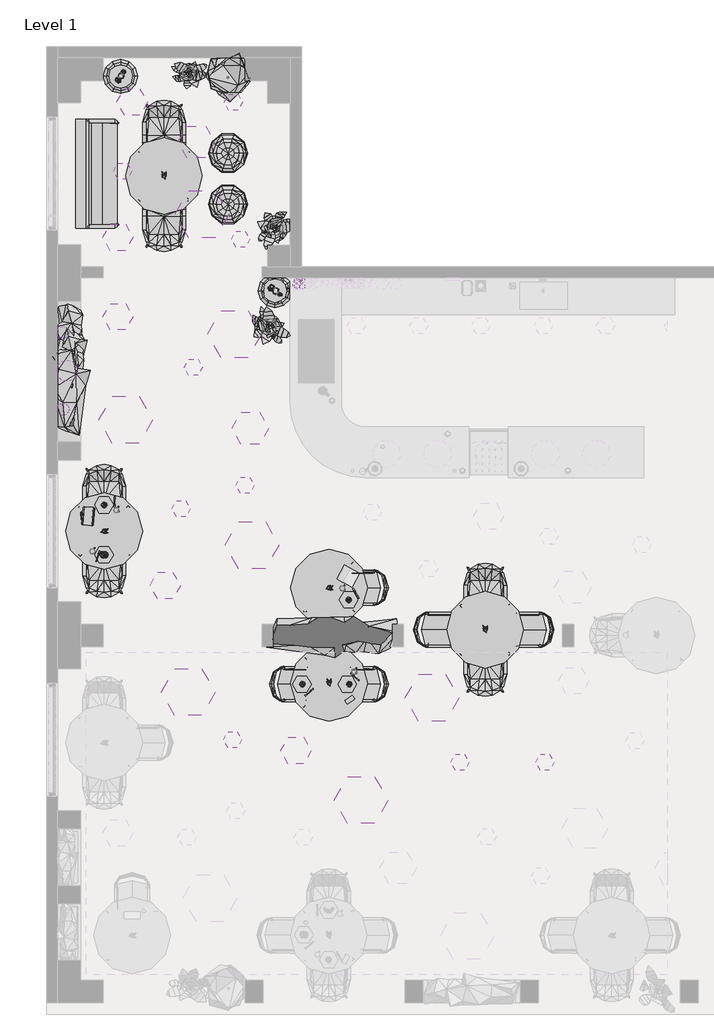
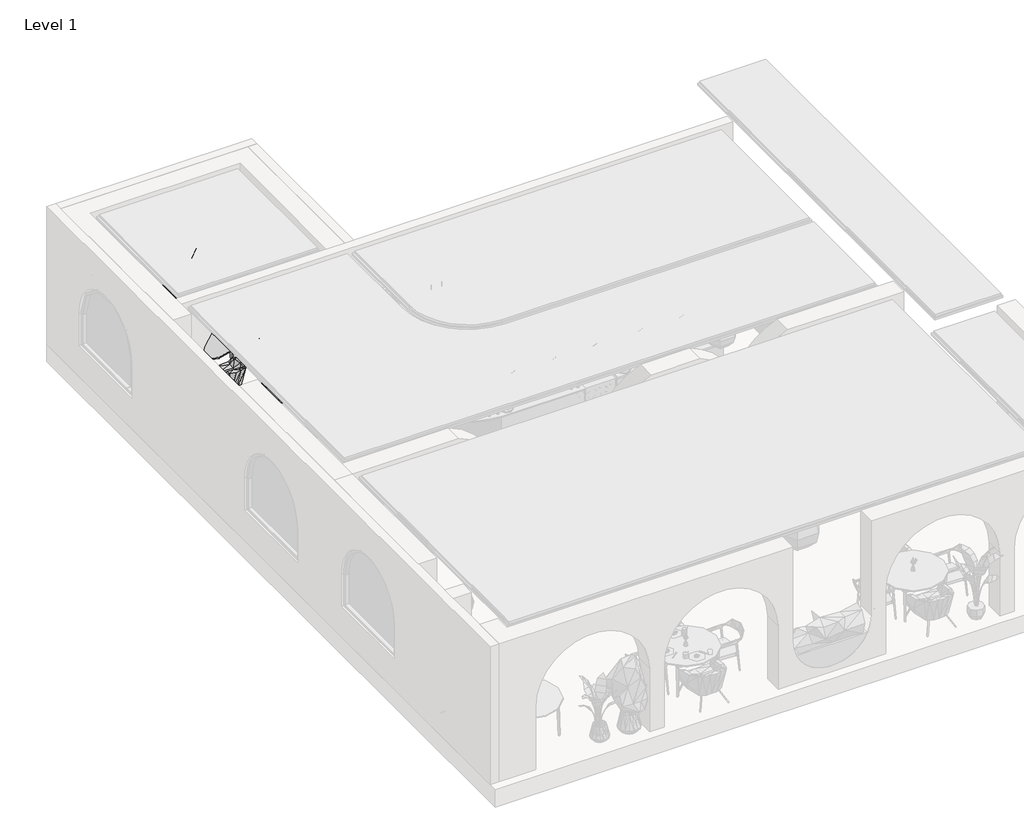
# One storey, part 3 of 5: 91 geographic elements.
"""IFC4 building model written with IfcOpenShell, lengths in millimetres."""

from ifc_helpers import new_model, si_unit, origin, place, context, project, spatial, transform, mapped, element, save
from components import geographic_element_8ca766f1, geographic_element_7c99d2c4, geographic_element_ad5755f3, geographic_element_16dff3c8, geographic_element_266ae1ca, geographic_element_ddda1ed9, geographic_element_9b304887, geographic_element_eaedea96, geographic_element_ab19c15e, geographic_element_721f793b, geographic_element_d7ba0e85, geographic_element_7c057f5b, geographic_element_bc1c03e3, geographic_element_5908e057, enscape_assetdefinition_armchair_052_outdoor_enscape_f294b56b, enscape_assetdefinition_armchair_052_outdoor_enscape_d5c26a59, enscape_assetdefinition_basket_003_enscape_assetdefinition_82603852, enscape_assetdefinition_basket_004_enscape_assetdefinition_14d161dd, enscape_assetdefinition_basket_004_enscape_assetdefinition_e0a11305, enscape_assetdefinition_chair_005_enscape_assetdefinition_31156a69, enscape_assetdefinition_chair_005_enscape_assetdefinition_cb8def9a, enscape_assetdefinition_coffee_maker_001_enscape_8fe14100, enscape_assetdefinition_cup_002_coffee_enscape_aa947409, enscape_assetdefinition_floor_lamp_016_enscape_4e544922, enscape_assetdefinition_floor_lamp_016_enscape_5eb83b77, enscape_assetdefinition_floor_lamp_016_enscape_559c5179, enscape_assetdefinition_floor_lamp_016_enscape_966ce3ff, enscape_assetdefinition_floor_lamp_016_enscape_838fbf4e, enscape_assetdefinition_floor_lamp_016_enscape_9e8934fe, enscape_assetdefinition_glass_006_enscape_assetdefinition_72c5cc0c, enscape_assetdefinition_pen_tablet_001_enscape_65ee1f54, enscape_assetdefinition_plate_002_flat_enscape_c81c6526, enscape_assetdefinition_pouf_014_enscape_assetdefinition_ed6ffb50, enscape_assetdefinition_sofa_055_outdoor_enscape_e8bea229, enscape_assetdefinition_vase_048_paper_palm_enscape_02403a3f

model = new_model("IFC4")

# Units and contexts
model_context = context("Model", 3, world=origin())
ifc_project = project(units=[si_unit("LENGTHUNIT", "METRE", prefix="MILLI")], contexts=[model_context])

# Site, building, storey
site = spatial("IfcSite", under=ifc_project)
building = spatial("IfcBuilding", under=site)
storey = spatial("IfcBuildingStorey", under=building, Name="Level 1", Elevation=0.0)

# Geographic elements
placement = place(None, origin())
geographic_element_shape = geographic_element_8ca766f1(model_context)
element("IfcGeographicElement", 1, ObjectType="Enscape AssetDefinition - Food 027 Pastry : Enscape AssetDefinition - Food 027 Pastry", at=placement, inside=storey, context=model_context, shape_type="MappedRepresentation", body=[
    mapped(geographic_element_shape, transform((16764.7330214, 3637.2135848, 765.0), x_axis=(1.0, 0.0, 0.0), y_axis=(0.0, 1.0, 0.0), z_axis=(0.0, 0.0, 1.0))),
])
element("IfcGeographicElement", 2, ObjectType="Enscape AssetDefinition - Food 027 Pastry : Enscape AssetDefinition - Food 027 Pastry", at=placement, inside=storey, context=model_context, shape_type="MappedRepresentation", body=[
    mapped(geographic_element_shape, transform((16775.1576528, 2150.3600826, 765.0), x_axis=(1.0, 0.0, 0.0), y_axis=(0.0, 1.0, 0.0), z_axis=(0.0, 0.0, 1.0))),
])
element("IfcGeographicElement", 3, ObjectType="Enscape AssetDefinition - Food 027 Pastry : Enscape AssetDefinition - Food 027 Pastry", at=placement, inside=storey, context=model_context, shape_type="MappedRepresentation", body=[
    mapped(geographic_element_shape, transform((15947.8076656, 2150.3600826, 765.0), x_axis=(1.0, 0.0, 0.0), y_axis=(0.0, 1.0, 0.0), z_axis=(0.0, 0.0, 1.0))),
])
element("IfcGeographicElement", 4, ObjectType="Enscape AssetDefinition - Food 027 Pastry : Enscape AssetDefinition - Food 027 Pastry", at=placement, inside=storey, context=model_context, shape_type="MappedRepresentation", body=[
    mapped(geographic_element_shape, transform((12451.4780503, 5310.3600826, 765.0), x_axis=(1.0, 0.0, 0.0), y_axis=(0.0, 1.0, 0.0), z_axis=(0.0, 0.0, 1.0))),
])
geographic_element_2_shape = geographic_element_7c99d2c4(model_context)
element("IfcGeographicElement", 5, ObjectType="Enscape AssetDefinition - Food 019 Pastry : Enscape AssetDefinition - Food 019 Pastry", at=placement, inside=storey, context=model_context, shape_type="MappedRepresentation", body=[
    mapped(geographic_element_2_shape, transform((12451.4780503, 4430.3600826, 765.0), x_axis=(1.0, 0.0, 0.0), y_axis=(0.0, 1.0, 0.0), z_axis=(0.0, 0.0, 1.0))),
])
geographic_element_3_shape = geographic_element_ad5755f3(model_context)
element("IfcGeographicElement", 6, ObjectType="Enscape AssetDefinition - Ease Round Table : Enscape AssetDefinition - Ease Round Table", at=placement, inside=storey, context=model_context, shape_type="MappedRepresentation", body=[
    mapped(geographic_element_3_shape, transform((13507.3956226, 11110.3600826, 0.0), x_axis=(1.0, 0.0, 0.0), y_axis=(0.0, 1.0, 0.0), z_axis=(0.0, 0.0, 1.0))),
])
element("IfcGeographicElement", 7, ObjectType="Enscape AssetDefinition - Ease Round Table : Enscape AssetDefinition - Ease Round Table", at=placement, inside=storey, context=model_context, shape_type="MappedRepresentation", body=[
    mapped(geographic_element_3_shape, transform((12451.4780503, 4850.1610272, 0.0), x_axis=(1.0, 0.0, 0.0), y_axis=(0.0, 1.0, 0.0), z_axis=(0.0, 0.0, 1.0))),
])
element("IfcGeographicElement", 8, ObjectType="Enscape AssetDefinition - Ease Round Table : Enscape AssetDefinition - Ease Round Table", at=placement, inside=storey, context=model_context, shape_type="MappedRepresentation", body=[
    mapped(geographic_element_3_shape, transform((19174.1465156, 3110.3600826, 0.0), x_axis=(1.0, 0.0, 0.0), y_axis=(0.0, 1.0, 0.0), z_axis=(0.0, 0.0, 1.0))),
])
element("IfcGeographicElement", 9, ObjectType="Enscape AssetDefinition - Ease Round Table : Enscape AssetDefinition - Ease Round Table", at=placement, inside=storey, context=model_context, shape_type="MappedRepresentation", body=[
    mapped(geographic_element_3_shape, transform((16418.6073706, 3852.330219, 0.0), x_axis=(0.0, 1.0, 0.0), y_axis=(-1.0, 0.0, 0.0), z_axis=(0.0, 0.0, 1.0))),
])
geographic_element_4_shape = geographic_element_16dff3c8(model_context)
element("IfcGeographicElement", 10, ObjectType="Enscape AssetDefinition - Ease Round Table : Enscape AssetDefinition - Ease Round Table", at=placement, inside=storey, context=model_context, shape_type="MappedRepresentation", body=[
    mapped(geographic_element_4_shape, transform((16418.6073706, 2168.3899463, 0.0), x_axis=(0.0, -1.0, 0.0), y_axis=(1.0, 0.0, 0.0), z_axis=(0.0, 0.0, 1.0))),
])
geographic_element_5_shape = geographic_element_266ae1ca(model_context)
element("IfcGeographicElement", 11, ObjectType="Enscape AssetDefinition - Potted Plant 250 Snake Plant : Enscape AssetDefinition - Potted Plant 250 Snake Plant", at=placement, inside=storey, context=model_context, shape_type="MappedRepresentation", body=[
    mapped(geographic_element_5_shape, transform((11835.1576528, 8055.0994043, 554.8985655), x_axis=(1.0, 0.0, 0.0), y_axis=(0.0, 1.0, 0.0), z_axis=(0.0, 0.0, 1.0))),
])
geographic_element_6_shape = geographic_element_ddda1ed9(model_context)
element("IfcGeographicElement", 12, ObjectType="Enscape AssetDefinition - Potted Plant 250 Snake Plant : Enscape AssetDefinition - Potted Plant 250 Snake Plant 2", at=placement, inside=storey, context=model_context, shape_type="MappedRepresentation", body=[
    mapped(geographic_element_6_shape, transform((11835.1576528, 7500.0994043, 554.8985655), x_axis=(1.0, 0.0, 0.0), y_axis=(0.0, 1.0, 0.0), z_axis=(0.0, 0.0, 1.0))),
])
geographic_element_7_shape = geographic_element_9b304887(model_context)
element("IfcGeographicElement", 13, ObjectType="Enscape AssetDefinition - Potted Plant 250 Snake Plant : Enscape AssetDefinition - Potted Plant 250 Snake Plant 3", at=placement, inside=storey, context=model_context, shape_type="MappedRepresentation", body=[
    mapped(geographic_element_7_shape, transform((16455.1576528, 3010.3600826, 616.3291766), x_axis=(0.0, -1.0, 0.0), y_axis=(1.0, 0.0, 0.0), z_axis=(0.0, 0.0, 1.0))),
])
geographic_element_8_shape = geographic_element_eaedea96(model_context)
element("IfcGeographicElement", 14, ObjectType="Enscape AssetDefinition - Potted Plant 002 Cactus : Enscape AssetDefinition - Potted Plant 002 Cactus", at=placement, inside=storey, context=model_context, shape_type="MappedRepresentation", body=[
    mapped(geographic_element_8_shape, transform((12742.0213957, 12863.3824293, 0.0), x_axis=(0.5735764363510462, 0.8191520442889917, 0.0), y_axis=(-0.8191520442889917, 0.5735764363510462, 0.0), z_axis=(0.0, 0.0, 1.0))),
])
geographic_element_9_shape = geographic_element_ab19c15e(model_context)
element("IfcGeographicElement", 15, ObjectType="Enscape AssetDefinition - Potted Plant 024 Fiddle-Leaf Fig : Enscape AssetDefinition - Potted Plant 024 Fiddle-Leaf Fig 2", at=placement, inside=storey, context=model_context, shape_type="MappedRepresentation", body=[
    mapped(geographic_element_9_shape, transform((14638.659147, 12850.3600826, 0.0), x_axis=(0.0, -1.0, 0.0), y_axis=(1.0, 0.0, 0.0), z_axis=(0.0, 0.0, 1.0))),
])
geographic_element_10_shape = geographic_element_721f793b(model_context)
element("IfcGeographicElement", 16, ObjectType="Enscape AssetDefinition - Potted Plant 002 Cactus : Enscape AssetDefinition - Potted Plant 002 Cactus 2", at=placement, inside=storey, context=model_context, shape_type="MappedRepresentation", body=[
    mapped(geographic_element_10_shape, transform((15469.9906587, 9088.9442706, 0.0), x_axis=(0.8191520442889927, -0.5735764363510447, 0.0), y_axis=(0.5735764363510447, 0.8191520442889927, 0.0), z_axis=(0.0, 0.0, 1.0))),
])
geographic_element_11_shape = geographic_element_d7ba0e85(model_context)
element("IfcGeographicElement", 17, ObjectType="Enscape AssetDefinition - Potted Plant 119 Strelitzia Nicolai : Enscape AssetDefinition - Potted Plant 119 Strelitzia Nicolai 2", at=placement, inside=storey, context=model_context, shape_type="MappedRepresentation", body=[
    mapped(geographic_element_11_shape, transform((15481.2902832, 10189.5644545, 0.0), x_axis=(0.9455185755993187, 0.32556815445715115, 0.0), y_axis=(-0.32556815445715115, 0.9455185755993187, 0.0), z_axis=(0.0, 0.0, 1.0))),
])
element("IfcGeographicElement", 18, ObjectType="Enscape AssetDefinition - Potted Plant 119 Strelitzia Nicolai : Enscape AssetDefinition - Potted Plant 119 Strelitzia Nicolai 2", at=placement, inside=storey, context=model_context, shape_type="MappedRepresentation", body=[
    mapped(geographic_element_11_shape, transform((15361.7764835, 8465.6402935, 0.0), x_axis=(-0.32556815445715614, 0.9455185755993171, 0.0), y_axis=(-0.9455185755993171, -0.32556815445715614, 0.0), z_axis=(0.0, 0.0, 1.0))),
])
geographic_element_12_shape = geographic_element_7c057f5b(model_context)
element("IfcGeographicElement", 19, ObjectType="Enscape AssetDefinition - Potted Plant 119 Strelitzia Nicolai : Enscape AssetDefinition - Potted Plant 119 Strelitzia Nicolai 3", at=placement, inside=storey, context=model_context, shape_type="MappedRepresentation", body=[
    mapped(geographic_element_12_shape, transform((13940.0393029, 12929.5193963, 0.0), x_axis=(-0.9271838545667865, 0.37460659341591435, 0.0), y_axis=(-0.37460659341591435, -0.9271838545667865, 0.0), z_axis=(0.0, 0.0, 1.0))),
])
geographic_element_13_shape = geographic_element_bc1c03e3(model_context)
element("IfcGeographicElement", 20, ObjectType="Enscape AssetDefinition - Smartphone 002 : Enscape AssetDefinition - Smartphone 002", at=placement, inside=storey, context=model_context, shape_type="MappedRepresentation", body=[
    mapped(geographic_element_13_shape, transform((16787.9806031, 1880.2171241, 762.0), x_axis=(0.587785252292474, -0.8090169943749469, 0.0), y_axis=(0.8090169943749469, 0.587785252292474, 0.0), z_axis=(0.0, 0.0, 1.0))),
])
geographic_element_14_shape = geographic_element_5908e057(model_context)
element("IfcGeographicElement", 21, ObjectType="Enscape AssetDefinition - Cutlery 001 Fork : Enscape AssetDefinition - Cutlery 001 Fork", at=placement, inside=storey, context=model_context, shape_type="MappedRepresentation", body=[
    mapped(geographic_element_14_shape, transform((16066.17958, 2005.7587001, 762.0), x_axis=(0.6427876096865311, -0.766044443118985, 0.0), y_axis=(0.766044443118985, 0.6427876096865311, 0.0), z_axis=(0.0, 0.0, 1.0))),
])
element("IfcGeographicElement", 22, ObjectType="Enscape AssetDefinition - Cutlery 001 Fork : Enscape AssetDefinition - Cutlery 001 Fork", at=placement, inside=storey, context=model_context, shape_type="MappedRepresentation", body=[
    mapped(geographic_element_14_shape, transform((12341.1690492, 4404.2493946, 780.0), x_axis=(0.9510565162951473, -0.3090169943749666, 0.0), y_axis=(0.3090169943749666, 0.9510565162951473, 0.0), z_axis=(0.0, 0.0, 1.0))),
])
element("IfcGeographicElement", 23, ObjectType="Enscape AssetDefinition - Cutlery 001 Fork : Enscape AssetDefinition - Cutlery 001 Fork", at=placement, inside=storey, context=model_context, shape_type="MappedRepresentation", body=[
    mapped(geographic_element_14_shape, transform((16876.2440437, 2278.290505, 762.0), x_axis=(0.6697026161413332, 0.742629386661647, 0.0), y_axis=(-0.742629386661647, 0.6697026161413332, 0.0), z_axis=(0.0, 0.0, 1.0))),
])
element("IfcGeographicElement", 24, ObjectType="Enscape AssetDefinition - Cutlery 001 Fork : Enscape AssetDefinition - Cutlery 001 Fork", at=placement, inside=storey, context=model_context, shape_type="MappedRepresentation", body=[
    mapped(geographic_element_14_shape, transform((16893.1275574, 3751.063625, 762.0), x_axis=(0.857563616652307, 0.5143779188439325, 0.0), y_axis=(-0.5143779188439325, 0.857563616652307, 0.0), z_axis=(0.0, 0.0, 1.0))),
])
element("IfcGeographicElement", 25, ObjectType="Enscape AssetDefinition - Cutlery 001 Fork : Enscape AssetDefinition - Cutlery 001 Fork", at=placement, inside=storey, context=model_context, shape_type="MappedRepresentation", body=[
    mapped(geographic_element_14_shape, transform((12635.1576528, 5365.3600826, 762.0), x_axis=(-1.0, 0.0, 0.0), y_axis=(0.0, -1.0, 0.0), z_axis=(0.0, 0.0, 1.0))),
])
enscape_assetdefinition_armchair_052_outdoor_enscape_shape = enscape_assetdefinition_armchair_052_outdoor_enscape_f294b56b(model_context)
element("IfcGeographicElement", 26, ObjectType="Enscape AssetDefinition - Armchair 052 Outdoor : Enscape AssetDefinition - Armchair 052 Outdoor", at=placement, inside=storey, context=model_context, shape_type="MappedRepresentation", body=[
    mapped(enscape_assetdefinition_armchair_052_outdoor_enscape_shape, transform((13507.3956226, 11946.1650532, 0.0), x_axis=(1.0, 0.0, 0.0), y_axis=(0.0, 1.0, 0.0), z_axis=(0.0, 0.0, 1.0))),
])
element("IfcGeographicElement", 27, ObjectType="Enscape AssetDefinition - Armchair 052 Outdoor : Enscape AssetDefinition - Armchair 052 Outdoor", at=placement, inside=storey, context=model_context, shape_type="MappedRepresentation", body=[
    mapped(enscape_assetdefinition_armchair_052_outdoor_enscape_shape, transform((12451.4780503, 5525.9659977, 0.0), x_axis=(1.0, 0.0, 0.0), y_axis=(0.0, 1.0, 0.0), z_axis=(0.0, 0.0, 1.0))),
])
element("IfcGeographicElement", 28, ObjectType="Enscape AssetDefinition - Armchair 052 Outdoor : Enscape AssetDefinition - Armchair 052 Outdoor", at=placement, inside=storey, context=model_context, shape_type="MappedRepresentation", body=[
    mapped(enscape_assetdefinition_armchair_052_outdoor_enscape_shape, transform((19174.1465156, 3786.1650532, 0.0), x_axis=(1.0, 0.0, 0.0), y_axis=(0.0, 1.0, 0.0), z_axis=(0.0, 0.0, 1.0))),
])
enscape_assetdefinition_armchair_052_outdoor_enscape_2_shape = enscape_assetdefinition_armchair_052_outdoor_enscape_d5c26a59(model_context)
element("IfcGeographicElement", 29, ObjectType="Enscape AssetDefinition - Armchair 052 Outdoor : Enscape AssetDefinition - Armchair 052 Outdoor", at=placement, inside=storey, context=model_context, shape_type="MappedRepresentation", body=[
    mapped(enscape_assetdefinition_armchair_052_outdoor_enscape_2_shape, transform((13507.3956226, 10274.5551121, 0.0), x_axis=(1.0, 0.0, 0.0), y_axis=(0.0, 1.0, 0.0), z_axis=(0.0, 0.0, 1.0))),
])
element("IfcGeographicElement", 30, ObjectType="Enscape AssetDefinition - Armchair 052 Outdoor : Enscape AssetDefinition - Armchair 052 Outdoor", at=placement, inside=storey, context=model_context, shape_type="MappedRepresentation", body=[
    mapped(enscape_assetdefinition_armchair_052_outdoor_enscape_2_shape, transform((12451.4780503, 4174.3560566, 0.0), x_axis=(1.0, 0.0, 0.0), y_axis=(0.0, 1.0, 0.0), z_axis=(0.0, 0.0, 1.0))),
])
element("IfcGeographicElement", 31, ObjectType="Enscape AssetDefinition - Armchair 052 Outdoor : Enscape AssetDefinition - Armchair 052 Outdoor", at=placement, inside=storey, context=model_context, shape_type="MappedRepresentation", body=[
    mapped(enscape_assetdefinition_armchair_052_outdoor_enscape_2_shape, transform((19174.1465156, 2434.5551121, 0.0), x_axis=(1.0, 0.0, 0.0), y_axis=(0.0, 1.0, 0.0), z_axis=(0.0, 0.0, 1.0))),
])
enscape_assetdefinition_basket_003_enscape_assetdefinition_shape = enscape_assetdefinition_basket_003_enscape_assetdefinition_82603852(model_context)
element("IfcGeographicElement", 32, ObjectType="Enscape AssetDefinition - Basket 003 : Enscape AssetDefinition - Basket 003 2", at=placement, inside=storey, context=model_context, shape_type="MappedRepresentation", body=[
    mapped(enscape_assetdefinition_basket_003_enscape_assetdefinition_shape, transform((15469.9906314, 9088.9442706, 0.0), x_axis=(1.0, 0.0, 0.0), y_axis=(0.0, 1.0, 0.0), z_axis=(0.0, 0.0, 1.0))),
])
element("IfcGeographicElement", 33, ObjectType="Enscape AssetDefinition - Basket 003 : Enscape AssetDefinition - Basket 003 2", at=placement, inside=storey, context=model_context, shape_type="MappedRepresentation", body=[
    mapped(enscape_assetdefinition_basket_003_enscape_assetdefinition_shape, transform((12742.0213685, 12863.3824293, 0.0), x_axis=(0.0, 1.0, 0.0), y_axis=(-1.0, 0.0, 0.0), z_axis=(0.0, 0.0, 1.0))),
])
enscape_assetdefinition_basket_004_enscape_assetdefinition_shape = enscape_assetdefinition_basket_004_enscape_assetdefinition_14d161dd(model_context)
element("IfcGeographicElement", 34, ObjectType="Enscape AssetDefinition - Basket 004 : Enscape AssetDefinition - Basket 004", at=placement, inside=storey, context=model_context, shape_type="MappedRepresentation", body=[
    mapped(enscape_assetdefinition_basket_004_enscape_assetdefinition_shape, transform((15454.6379631, 10177.9680841, 0.0), x_axis=(0.0, -1.0, 0.0), y_axis=(1.0, 0.0, 0.0), z_axis=(0.0, 0.0, 1.0))),
])
element("IfcGeographicElement", 35, ObjectType="Enscape AssetDefinition - Basket 004 : Enscape AssetDefinition - Basket 004", at=placement, inside=storey, context=model_context, shape_type="MappedRepresentation", body=[
    mapped(enscape_assetdefinition_basket_004_enscape_assetdefinition_shape, transform((15335.1241634, 8454.0439231, 0.0), x_axis=(1.0, 0.0, 0.0), y_axis=(0.0, 1.0, 0.0), z_axis=(0.0, 0.0, 1.0))),
])
element("IfcGeographicElement", 36, ObjectType="Enscape AssetDefinition - Basket 004 : Enscape AssetDefinition - Basket 004", at=placement, inside=storey, context=model_context, shape_type="MappedRepresentation", body=[
    mapped(enscape_assetdefinition_basket_004_enscape_assetdefinition_shape, transform((14635.1576528, 12850.3600826, 0.0), x_axis=(1.0, 0.0, 0.0), y_axis=(0.0, 1.0, 0.0), z_axis=(0.0, 0.0, 1.0))),
])
enscape_assetdefinition_basket_004_enscape_assetdefinition_2_shape = enscape_assetdefinition_basket_004_enscape_assetdefinition_e0a11305(model_context)
element("IfcGeographicElement", 37, ObjectType="Enscape AssetDefinition - Basket 004 : Enscape AssetDefinition - Basket 004 2", at=placement, inside=storey, context=model_context, shape_type="MappedRepresentation", body=[
    mapped(enscape_assetdefinition_basket_004_enscape_assetdefinition_2_shape, transform((13935.4087284, 12931.3902698, 0.0), x_axis=(1.0, 0.0, 0.0), y_axis=(0.0, 1.0, 0.0), z_axis=(0.0, 0.0, 1.0))),
])
enscape_assetdefinition_chair_005_enscape_assetdefinition_shape = enscape_assetdefinition_chair_005_enscape_assetdefinition_31156a69(model_context)
element("IfcGeographicElement", 38, ObjectType="Enscape AssetDefinition - Chair 005 : Enscape AssetDefinition - Chair 005", at=placement, inside=storey, context=model_context, shape_type="MappedRepresentation", body=[
    mapped(enscape_assetdefinition_chair_005_enscape_assetdefinition_shape, transform((17035.1576528, 3852.8600826, 0.0), x_axis=(0.0, -1.0, 0.0), y_axis=(1.0, 0.0, 0.0), z_axis=(0.0, 0.0, 1.0))),
])
element("IfcGeographicElement", 39, ObjectType="Enscape AssetDefinition - Chair 005 : Enscape AssetDefinition - Chair 005", at=placement, inside=storey, context=model_context, shape_type="MappedRepresentation", body=[
    mapped(enscape_assetdefinition_chair_005_enscape_assetdefinition_shape, transform((18339.2994397, 3110.3600826, 0.0), x_axis=(0.0, 1.0, 0.0), y_axis=(-1.0, 0.0, 0.0), z_axis=(0.0, 0.0, 1.0))),
])
element("IfcGeographicElement", 40, ObjectType="Enscape AssetDefinition - Chair 005 : Enscape AssetDefinition - Chair 005", at=placement, inside=storey, context=model_context, shape_type="MappedRepresentation", body=[
    mapped(enscape_assetdefinition_chair_005_enscape_assetdefinition_shape, transform((19959.2994397, 3110.3600826, 0.0), x_axis=(0.0, -1.0, 0.0), y_axis=(1.0, 0.0, 0.0), z_axis=(0.0, 0.0, 1.0))),
])
element("IfcGeographicElement", 41, ObjectType="Enscape AssetDefinition - Chair 005 : Enscape AssetDefinition - Chair 005", at=placement, inside=storey, context=model_context, shape_type="MappedRepresentation", body=[
    mapped(enscape_assetdefinition_chair_005_enscape_assetdefinition_shape, transform((15802.0570883, 2150.3600826, 0.0), x_axis=(0.0, 1.0, 0.0), y_axis=(-1.0, 0.0, 0.0), z_axis=(0.0, 0.0, 1.0))),
])
enscape_assetdefinition_chair_005_enscape_assetdefinition_2_shape = enscape_assetdefinition_chair_005_enscape_assetdefinition_cb8def9a(model_context)
element("IfcGeographicElement", 42, ObjectType="Enscape AssetDefinition - Chair 005 : Enscape AssetDefinition - Chair 005", at=placement, inside=storey, context=model_context, shape_type="MappedRepresentation", body=[
    mapped(enscape_assetdefinition_chair_005_enscape_assetdefinition_2_shape, transform((17035.1576528, 2150.3600826, 0.0), x_axis=(0.0, 1.0, 0.0), y_axis=(-1.0, 0.0, 0.0), z_axis=(0.0, 0.0, 1.0))),
])
enscape_assetdefinition_coffee_maker_001_enscape_shape = enscape_assetdefinition_coffee_maker_001_enscape_8fe14100(model_context)
element("IfcGeographicElement", 43, ObjectType="Enscape AssetDefinition - Coffee Maker 001 : Enscape AssetDefinition - Coffee Maker 001", at=placement, inside=storey, context=model_context, shape_type="MappedRepresentation", body=[
    mapped(enscape_assetdefinition_coffee_maker_001_enscape_shape, transform((15851.6806951, 9210.7377386, 2000.0), x_axis=(-0.8290375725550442, -0.5591929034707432, 0.0), y_axis=(0.5591929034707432, -0.8290375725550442, 0.0), z_axis=(0.0, 0.0, 1.0))),
])
enscape_assetdefinition_cup_002_coffee_enscape_shape = enscape_assetdefinition_cup_002_coffee_enscape_aa947409(model_context)
element("IfcGeographicElement", 44, ObjectType="Enscape AssetDefinition - Cup 002 Coffee : Enscape AssetDefinition - Cup 002 Coffee", at=placement, inside=storey, context=model_context, shape_type="MappedRepresentation", body=[
    mapped(enscape_assetdefinition_cup_002_coffee_enscape_shape, transform((16654.9798391, 3837.1329734, 762.0), x_axis=(0.5591929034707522, 0.8290375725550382, 0.0), y_axis=(-0.8290375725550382, 0.5591929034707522, 0.0), z_axis=(0.0, 0.0, 1.0))),
])
element("IfcGeographicElement", 45, ObjectType="Enscape AssetDefinition - Cup 002 Coffee : Enscape AssetDefinition - Cup 002 Coffee", at=placement, inside=storey, context=model_context, shape_type="MappedRepresentation", body=[
    mapped(enscape_assetdefinition_cup_002_coffee_enscape_shape, transform((16860.9560286, 2371.5362316, 762.0), x_axis=(0.5591929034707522, 0.8290375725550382, 0.0), y_axis=(-0.8290375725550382, 0.5591929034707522, 0.0), z_axis=(0.0, 0.0, 1.0))),
])
element("IfcGeographicElement", 46, ObjectType="Enscape AssetDefinition - Cup 002 Coffee : Enscape AssetDefinition - Cup 002 Coffee", at=placement, inside=storey, context=model_context, shape_type="MappedRepresentation", body=[
    mapped(enscape_assetdefinition_cup_002_coffee_enscape_shape, transform((12244.7310223, 4492.1179187, 762.0), x_axis=(0.5591929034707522, 0.8290375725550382, 0.0), y_axis=(-0.8290375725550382, 0.5591929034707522, 0.0), z_axis=(0.0, 0.0, 1.0))),
])
element("IfcGeographicElement", 47, ObjectType="Enscape AssetDefinition - Cup 002 Coffee : Enscape AssetDefinition - Cup 002 Coffee", at=placement, inside=storey, context=model_context, shape_type="MappedRepresentation", body=[
    mapped(enscape_assetdefinition_cup_002_coffee_enscape_shape, transform((12664.7310223, 5219.5792578, 762.0), x_axis=(0.5591929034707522, 0.8290375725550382, 0.0), y_axis=(-0.8290375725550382, 0.5591929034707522, 0.0), z_axis=(0.0, 0.0, 1.0))),
])
enscape_assetdefinition_floor_lamp_016_enscape_shape = enscape_assetdefinition_floor_lamp_016_enscape_4e544922(model_context)
element("IfcGeographicElement", 48, ObjectType="Enscape AssetDefinition - Floor Lamp 016 : Enscape AssetDefinition - Floor Lamp 016", at=placement, inside=storey, context=model_context, shape_type="MappedRepresentation", body=[
    mapped(enscape_assetdefinition_floor_lamp_016_enscape_shape, transform((12835.1576528, 6810.3600826, 3100.0), x_axis=(-1.0, 0.0, 0.0), y_axis=(0.0, 1.0, 0.0), z_axis=(0.0, 0.0, -1.0))),
])
element("IfcGeographicElement", 49, ObjectType="Enscape AssetDefinition - Floor Lamp 016 : Enscape AssetDefinition - Floor Lamp 016", at=placement, inside=storey, context=model_context, shape_type="MappedRepresentation", body=[
    mapped(enscape_assetdefinition_floor_lamp_016_enscape_shape, transform((14750.2687606, 8317.3291069, 3100.0), x_axis=(-1.0, 0.0, 0.0), y_axis=(0.0, 1.0, 0.0), z_axis=(0.0, 0.0, -1.0))),
])
element("IfcGeographicElement", 50, ObjectType="Enscape AssetDefinition - Floor Lamp 016 : Enscape AssetDefinition - Floor Lamp 016", at=placement, inside=storey, context=model_context, shape_type="MappedRepresentation", body=[
    mapped(enscape_assetdefinition_floor_lamp_016_enscape_shape, transform((15059.6563681, 4599.6630151, 3100.0), x_axis=(-1.0, 0.0, 0.0), y_axis=(0.0, 1.0, 0.0), z_axis=(0.0, 0.0, -1.0))),
])
element("IfcGeographicElement", 51, ObjectType="Enscape AssetDefinition - Floor Lamp 016 : Enscape AssetDefinition - Floor Lamp 016", at=placement, inside=storey, context=model_context, shape_type="MappedRepresentation", body=[
    mapped(enscape_assetdefinition_floor_lamp_016_enscape_shape, transform((18235.1576528, 1910.3600826, 3100.0), x_axis=(-1.0, 0.0, 0.0), y_axis=(0.0, 1.0, 0.0), z_axis=(0.0, 0.0, -1.0))),
])
element("IfcGeographicElement", 52, ObjectType="Enscape AssetDefinition - Floor Lamp 016 : Enscape AssetDefinition - Floor Lamp 016", at=placement, inside=storey, context=model_context, shape_type="MappedRepresentation", body=[
    mapped(enscape_assetdefinition_floor_lamp_016_enscape_shape, transform((13935.1576528, 2010.3600826, 3100.0), x_axis=(-1.0, 0.0, 0.0), y_axis=(0.0, 1.0, 0.0), z_axis=(0.0, 0.0, -1.0))),
])
element("IfcGeographicElement", 53, ObjectType="Enscape AssetDefinition - Floor Lamp 016 : Enscape AssetDefinition - Floor Lamp 016", at=placement, inside=storey, context=model_context, shape_type="MappedRepresentation", body=[
    mapped(enscape_assetdefinition_floor_lamp_016_enscape_shape, transform((14176.7827064, 10434.9580942, 3100.0), x_axis=(-1.0, 0.0, 0.0), y_axis=(0.0, 1.0, 0.0), z_axis=(0.0, 0.0, -1.0))),
])
element("IfcGeographicElement", 54, ObjectType="Enscape AssetDefinition - Floor Lamp 016 : Enscape AssetDefinition - Floor Lamp 016", at=placement, inside=storey, context=model_context, shape_type="MappedRepresentation", body=[
    mapped(enscape_assetdefinition_floor_lamp_016_enscape_shape, transform((16983.1833732, 108.2518873, 3100.0), x_axis=(-1.0, 0.0, 0.0), y_axis=(0.0, 1.0, 0.0), z_axis=(0.0, 0.0, -1.0))),
])
enscape_assetdefinition_floor_lamp_016_enscape_2_shape = enscape_assetdefinition_floor_lamp_016_enscape_5eb83b77(model_context)
element("IfcGeographicElement", 55, ObjectType="Enscape AssetDefinition - Floor Lamp 016 : Enscape AssetDefinition - Floor Lamp 016 2", at=placement, inside=storey, context=model_context, shape_type="MappedRepresentation", body=[
    mapped(enscape_assetdefinition_floor_lamp_016_enscape_2_shape, transform((13529.4643981, 3887.7063991, 3100.0), x_axis=(-1.0, 0.0, 0.0), y_axis=(0.0, 1.0, 0.0), z_axis=(0.0, 0.0, -1.0))),
])
element("IfcGeographicElement", 56, ObjectType="Enscape AssetDefinition - Floor Lamp 016 : Enscape AssetDefinition - Floor Lamp 016 2", at=placement, inside=storey, context=model_context, shape_type="MappedRepresentation", body=[
    mapped(enscape_assetdefinition_floor_lamp_016_enscape_2_shape, transform((15833.9260438, 978.0624841, 3100.0), x_axis=(-1.0, 0.0, 0.0), y_axis=(0.0, 1.0, 0.0), z_axis=(0.0, 0.0, -1.0))),
])
element("IfcGeographicElement", 57, ObjectType="Enscape AssetDefinition - Floor Lamp 016 : Enscape AssetDefinition - Floor Lamp 016 2", at=placement, inside=storey, context=model_context, shape_type="MappedRepresentation", body=[
    mapped(enscape_assetdefinition_floor_lamp_016_enscape_2_shape, transform((12694.4283049, 8626.9797489, 3100.0), x_axis=(-1.0, 0.0, 0.0), y_axis=(0.0, 1.0, 0.0), z_axis=(0.0, 0.0, -1.0))),
])
element("IfcGeographicElement", 58, ObjectType="Enscape AssetDefinition - Floor Lamp 016 : Enscape AssetDefinition - Floor Lamp 016 2", at=placement, inside=storey, context=model_context, shape_type="MappedRepresentation", body=[
    mapped(enscape_assetdefinition_floor_lamp_016_enscape_2_shape, transform((12694.4283049, 10026.9797489, 3100.0), x_axis=(-1.0, 0.0, 0.0), y_axis=(0.0, 1.0, 0.0), z_axis=(0.0, 0.0, -1.0))),
])
element("IfcGeographicElement", 59, ObjectType="Enscape AssetDefinition - Floor Lamp 016 : Enscape AssetDefinition - Floor Lamp 016 2", at=placement, inside=storey, context=model_context, shape_type="MappedRepresentation", body=[
    mapped(enscape_assetdefinition_floor_lamp_016_enscape_2_shape, transform((12945.2966168, 12413.8322978, 3100.0), x_axis=(-1.0, 0.0, 0.0), y_axis=(0.0, 1.0, 0.0), z_axis=(0.0, 0.0, -1.0))),
])
enscape_assetdefinition_floor_lamp_016_enscape_3_shape = enscape_assetdefinition_floor_lamp_016_enscape_559c5179(model_context)
element("IfcGeographicElement", 60, ObjectType="Enscape AssetDefinition - Floor Lamp 016 : Enscape AssetDefinition - Floor Lamp 016 3", at=placement, inside=storey, context=model_context, shape_type="MappedRepresentation", body=[
    mapped(enscape_assetdefinition_floor_lamp_016_enscape_3_shape, transform((18727.3784288, 773.3372406, 3100.0), x_axis=(-1.0, 0.0, 0.0), y_axis=(0.0, 1.0, 0.0), z_axis=(0.0, 0.0, -1.0))),
])
element("IfcGeographicElement", 61, ObjectType="Enscape AssetDefinition - Floor Lamp 016 : Enscape AssetDefinition - Floor Lamp 016 3", at=placement, inside=storey, context=model_context, shape_type="MappedRepresentation", body=[
    mapped(enscape_assetdefinition_floor_lamp_016_enscape_3_shape, transform((20227.3784288, 773.3372406, 3100.0), x_axis=(-1.0, 0.0, 0.0), y_axis=(0.0, 1.0, 0.0), z_axis=(0.0, 0.0, -1.0))),
])
element("IfcGeographicElement", 62, ObjectType="Enscape AssetDefinition - Floor Lamp 016 : Enscape AssetDefinition - Floor Lamp 016 3", at=placement, inside=storey, context=model_context, shape_type="MappedRepresentation", body=[
    mapped(enscape_assetdefinition_floor_lamp_016_enscape_3_shape, transform((14936.6632698, 5655.6265594, 3100.0), x_axis=(-1.0, 0.0, 0.0), y_axis=(0.0, 1.0, 0.0), z_axis=(0.0, 0.0, -1.0))),
])
element("IfcGeographicElement", 63, ObjectType="Enscape AssetDefinition - Floor Lamp 016 : Enscape AssetDefinition - Floor Lamp 016 3", at=placement, inside=storey, context=model_context, shape_type="MappedRepresentation", body=[
    mapped(enscape_assetdefinition_floor_lamp_016_enscape_3_shape, transform((13809.0321249, 5245.2023874, 3100.0), x_axis=(-1.0, 0.0, 0.0), y_axis=(0.0, 1.0, 0.0), z_axis=(0.0, 0.0, -1.0))),
])
element("IfcGeographicElement", 64, ObjectType="Enscape AssetDefinition - Floor Lamp 016 : Enscape AssetDefinition - Floor Lamp 016 3", at=placement, inside=storey, context=model_context, shape_type="MappedRepresentation", body=[
    mapped(enscape_assetdefinition_floor_lamp_016_enscape_3_shape, transform((14026.9214818, 7735.6891327, 3100.0), x_axis=(-1.0, 0.0, 0.0), y_axis=(0.0, 1.0, 0.0), z_axis=(0.0, 0.0, -1.0))),
])
element("IfcGeographicElement", 65, ObjectType="Enscape AssetDefinition - Floor Lamp 016 : Enscape AssetDefinition - Floor Lamp 016 3", at=placement, inside=storey, context=model_context, shape_type="MappedRepresentation", body=[
    mapped(enscape_assetdefinition_floor_lamp_016_enscape_3_shape, transform((14716.8093393, 1171.8446232, 3100.0), x_axis=(-1.0, 0.0, 0.0), y_axis=(0.0, 1.0, 0.0), z_axis=(0.0, 0.0, -1.0))),
])
element("IfcGeographicElement", 66, ObjectType="Enscape AssetDefinition - Floor Lamp 016 : Enscape AssetDefinition - Floor Lamp 016 3", at=placement, inside=storey, context=model_context, shape_type="MappedRepresentation", body=[
    mapped(enscape_assetdefinition_floor_lamp_016_enscape_3_shape, transform((14857.6505455, 9991.7919188, 3100.0), x_axis=(-1.0, 0.0, 0.0), y_axis=(0.0, 1.0, 0.0), z_axis=(0.0, 0.0, -1.0))),
])
element("IfcGeographicElement", 67, ObjectType="Enscape AssetDefinition - Floor Lamp 016 : Enscape AssetDefinition - Floor Lamp 016 3", at=placement, inside=storey, context=model_context, shape_type="MappedRepresentation", body=[
    mapped(enscape_assetdefinition_floor_lamp_016_enscape_3_shape, transform((12779.1895764, 11191.7919188, 3100.0), x_axis=(-1.0, 0.0, 0.0), y_axis=(0.0, 1.0, 0.0), z_axis=(0.0, 0.0, -1.0))),
])
element("IfcGeographicElement", 68, ObjectType="Enscape AssetDefinition - Floor Lamp 016 : Enscape AssetDefinition - Floor Lamp 016 3", at=placement, inside=storey, context=model_context, shape_type="MappedRepresentation", body=[
    mapped(enscape_assetdefinition_floor_lamp_016_enscape_3_shape, transform((14729.7001976, 12410.6062265, 3100.0), x_axis=(-1.0, 0.0, 0.0), y_axis=(0.0, 1.0, 0.0), z_axis=(0.0, 0.0, -1.0))),
])
enscape_assetdefinition_floor_lamp_016_enscape_4_shape = enscape_assetdefinition_floor_lamp_016_enscape_966ce3ff(model_context)
element("IfcGeographicElement", 69, ObjectType="Enscape AssetDefinition - Floor Lamp 016 : Enscape AssetDefinition - Floor Lamp 016 3 2", at=placement, inside=storey, context=model_context, shape_type="MappedRepresentation", body=[
    mapped(enscape_assetdefinition_floor_lamp_016_enscape_4_shape, transform((11635.1576528, 8350.3600826, 2000.0), x_axis=(0.0, 1.0, 0.0), y_axis=(0.0, 0.0, 1.0), z_axis=(1.0, 0.0, 0.0))),
])
element("IfcGeographicElement", 70, ObjectType="Enscape AssetDefinition - Floor Lamp 016 : Enscape AssetDefinition - Floor Lamp 016 3 2", at=placement, inside=storey, context=model_context, shape_type="MappedRepresentation", body=[
    mapped(enscape_assetdefinition_floor_lamp_016_enscape_4_shape, transform((11635.1576528, 6995.3600826, 2100.0), x_axis=(0.0, 1.0, 0.0), y_axis=(0.0, 0.0, 1.0), z_axis=(1.0, 0.0, 0.0))),
])
enscape_assetdefinition_floor_lamp_016_enscape_5_shape = enscape_assetdefinition_floor_lamp_016_enscape_838fbf4e(model_context)
element("IfcGeographicElement", 71, ObjectType="Enscape AssetDefinition - Floor Lamp 016 : Enscape AssetDefinition - Floor Lamp 016 3 2 2", at=placement, inside=storey, context=model_context, shape_type="MappedRepresentation", body=[
    mapped(enscape_assetdefinition_floor_lamp_016_enscape_5_shape, transform((15029.6410459, 6660.5343396, 3100.0), x_axis=(-1.0, 0.0, 0.0), y_axis=(0.0, 1.0, 0.0), z_axis=(0.0, 0.0, -1.0))),
])
element("IfcGeographicElement", 72, ObjectType="Enscape AssetDefinition - Floor Lamp 016 : Enscape AssetDefinition - Floor Lamp 016 3 2 2", at=placement, inside=storey, context=model_context, shape_type="MappedRepresentation", body=[
    mapped(enscape_assetdefinition_floor_lamp_016_enscape_5_shape, transform((14078.1063007, 11707.9819108, 3100.0), x_axis=(-1.0, 0.0, 0.0), y_axis=(0.0, 1.0, 0.0), z_axis=(0.0, 0.0, -1.0))),
])
enscape_assetdefinition_floor_lamp_016_enscape_6_shape = enscape_assetdefinition_floor_lamp_016_enscape_9e8934fe(model_context)
element("IfcGeographicElement", 73, ObjectType="Enscape AssetDefinition - Floor Lamp 016 : Enscape AssetDefinition - Floor Lamp 016 3 3", at=placement, inside=storey, context=model_context, shape_type="MappedRepresentation", body=[
    mapped(enscape_assetdefinition_floor_lamp_016_enscape_6_shape, transform((11635.1576528, 7675.3600826, 2300.0), x_axis=(0.0, 1.0, 0.0), y_axis=(0.0, 0.0, 1.0), z_axis=(1.0, 0.0, 0.0))),
])
enscape_assetdefinition_glass_006_enscape_assetdefinition_shape = enscape_assetdefinition_glass_006_enscape_assetdefinition_72c5cc0c(model_context)
element("IfcGeographicElement", 74, ObjectType="Enscape AssetDefinition - Glass 006 : Enscape AssetDefinition - Glass 006", at=placement, inside=storey, context=model_context, shape_type="MappedRepresentation", body=[
    mapped(enscape_assetdefinition_glass_006_enscape_assetdefinition_shape, transform((15850.1576528, 9260.3600826, 1750.0), x_axis=(1.0, 0.0, 0.0), y_axis=(0.0, 1.0, 0.0), z_axis=(0.0, 0.0, 1.0))),
])
element("IfcGeographicElement", 75, ObjectType="Enscape AssetDefinition - Glass 006 : Enscape AssetDefinition - Glass 006", at=placement, inside=storey, context=model_context, shape_type="MappedRepresentation", body=[
    mapped(enscape_assetdefinition_glass_006_enscape_assetdefinition_shape, transform((15850.1576528, 9160.3600826, 1750.0), x_axis=(1.0, 0.0, 0.0), y_axis=(0.0, 1.0, 0.0), z_axis=(0.0, 0.0, 1.0))),
])
element("IfcGeographicElement", 76, ObjectType="Enscape AssetDefinition - Glass 006 : Enscape AssetDefinition - Glass 006", at=placement, inside=storey, context=model_context, shape_type="MappedRepresentation", body=[
    mapped(enscape_assetdefinition_glass_006_enscape_assetdefinition_shape, transform((15950.1576528, 9260.3600826, 1750.0), x_axis=(1.0, 0.0, 0.0), y_axis=(0.0, 1.0, 0.0), z_axis=(0.0, 0.0, 1.0))),
])
element("IfcGeographicElement", 77, ObjectType="Enscape AssetDefinition - Glass 006 : Enscape AssetDefinition - Glass 006", at=placement, inside=storey, context=model_context, shape_type="MappedRepresentation", body=[
    mapped(enscape_assetdefinition_glass_006_enscape_assetdefinition_shape, transform((15950.1576528, 9160.3600826, 1750.0), x_axis=(1.0, 0.0, 0.0), y_axis=(0.0, 1.0, 0.0), z_axis=(0.0, 0.0, 1.0))),
])
enscape_assetdefinition_pen_tablet_001_enscape_shape = enscape_assetdefinition_pen_tablet_001_enscape_65ee1f54(model_context)
element("IfcGeographicElement", 78, ObjectType="Enscape AssetDefinition - Pen Tablet 001 : Enscape AssetDefinition - Pen Tablet 001", at=placement, inside=storey, context=model_context, shape_type="MappedRepresentation", body=[
    mapped(enscape_assetdefinition_pen_tablet_001_enscape_shape, transform((12171.071583, 5112.1510213, 762.0), x_axis=(0.08715574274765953, 0.9961946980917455, 0.0), y_axis=(-0.9961946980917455, 0.08715574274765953, 0.0), z_axis=(0.0, 0.0, 1.0))),
])
enscape_assetdefinition_plate_002_flat_enscape_shape = enscape_assetdefinition_plate_002_flat_enscape_c81c6526(model_context)
element("IfcGeographicElement", 79, ObjectType="Enscape AssetDefinition - Plate 002 Flat : Enscape AssetDefinition - Plate 002 Flat", at=placement, inside=storey, context=model_context, shape_type="MappedRepresentation", body=[
    mapped(enscape_assetdefinition_plate_002_flat_enscape_shape, transform((12451.4780503, 4430.3600826, 762.0), x_axis=(1.0, 0.0, 0.0), y_axis=(0.0, 1.0, 0.0), z_axis=(0.0, 0.0, 1.0))),
])
element("IfcGeographicElement", 80, ObjectType="Enscape AssetDefinition - Plate 002 Flat : Enscape AssetDefinition - Plate 002 Flat", at=placement, inside=storey, context=model_context, shape_type="MappedRepresentation", body=[
    mapped(enscape_assetdefinition_plate_002_flat_enscape_shape, transform((12451.4780503, 5310.3600826, 762.0), x_axis=(1.0, 0.0, 0.0), y_axis=(0.0, 1.0, 0.0), z_axis=(0.0, 0.0, 1.0))),
])
element("IfcGeographicElement", 81, ObjectType="Enscape AssetDefinition - Plate 002 Flat : Enscape AssetDefinition - Plate 002 Flat", at=placement, inside=storey, context=model_context, shape_type="MappedRepresentation", body=[
    mapped(enscape_assetdefinition_plate_002_flat_enscape_shape, transform((16740.5566669, 2150.3600826, 762.0), x_axis=(1.0, 0.0, 0.0), y_axis=(0.0, 1.0, 0.0), z_axis=(0.0, 0.0, 1.0))),
])
element("IfcGeographicElement", 82, ObjectType="Enscape AssetDefinition - Plate 002 Flat : Enscape AssetDefinition - Plate 002 Flat", at=placement, inside=storey, context=model_context, shape_type="MappedRepresentation", body=[
    mapped(enscape_assetdefinition_plate_002_flat_enscape_shape, transform((15940.5566669, 2150.3600826, 762.0), x_axis=(1.0, 0.0, 0.0), y_axis=(0.0, 1.0, 0.0), z_axis=(0.0, 0.0, 1.0))),
])
element("IfcGeographicElement", 83, ObjectType="Enscape AssetDefinition - Plate 002 Flat : Enscape AssetDefinition - Plate 002 Flat", at=placement, inside=storey, context=model_context, shape_type="MappedRepresentation", body=[
    mapped(enscape_assetdefinition_plate_002_flat_enscape_shape, transform((16764.7330214, 3637.2135848, 762.0), x_axis=(1.0, 0.0, 0.0), y_axis=(0.0, 1.0, 0.0), z_axis=(0.0, 0.0, 1.0))),
])
enscape_assetdefinition_pouf_014_enscape_assetdefinition_shape = enscape_assetdefinition_pouf_014_enscape_assetdefinition_ed6ffb50(model_context)
element("IfcGeographicElement", 84, ObjectType="Enscape AssetDefinition - Pouf 014 : Enscape AssetDefinition - Pouf 014", at=placement, inside=storey, context=model_context, shape_type="MappedRepresentation", body=[
    mapped(enscape_assetdefinition_pouf_014_enscape_assetdefinition_shape, transform((14635.1576528, 10610.3600826, 0.0), x_axis=(1.0, 0.0, 0.0), y_axis=(0.0, 1.0, 0.0), z_axis=(0.0, 0.0, 1.0))),
])
element("IfcGeographicElement", 85, ObjectType="Enscape AssetDefinition - Pouf 014 : Enscape AssetDefinition - Pouf 014", at=placement, inside=storey, context=model_context, shape_type="MappedRepresentation", body=[
    mapped(enscape_assetdefinition_pouf_014_enscape_assetdefinition_shape, transform((14635.1576528, 11510.3600826, 0.0), x_axis=(1.0, 0.0, 0.0), y_axis=(0.0, 1.0, 0.0), z_axis=(0.0, 0.0, 1.0))),
])
enscape_assetdefinition_sofa_055_outdoor_enscape_shape = enscape_assetdefinition_sofa_055_outdoor_enscape_e8bea229(model_context)
element("IfcGeographicElement", 86, ObjectType="Enscape AssetDefinition - Sofa 055 Outdoor : Enscape AssetDefinition - Sofa 055 Outdoor", at=placement, inside=storey, context=model_context, shape_type="MappedRepresentation", body=[
    mapped(enscape_assetdefinition_sofa_055_outdoor_enscape_shape, transform((12355.1576528, 11147.1944749, 0.0), x_axis=(0.0, 1.0, 0.0), y_axis=(-1.0, 0.0, 0.0), z_axis=(0.0, 0.0, 1.0))),
])
enscape_assetdefinition_vase_048_paper_palm_enscape_shape = enscape_assetdefinition_vase_048_paper_palm_enscape_02403a3f(model_context)
element("IfcGeographicElement", 87, ObjectType="Enscape AssetDefinition - Vase 048 Paper Palm : Enscape AssetDefinition - Vase 048 Paper Palm", at=placement, inside=storey, context=model_context, shape_type="MappedRepresentation", body=[
    mapped(enscape_assetdefinition_vase_048_paper_palm_enscape_shape, transform((19174.1465156, 3110.3600826, 762.0), x_axis=(0.0, 1.0, 0.0), y_axis=(-1.0, 0.0, 0.0), z_axis=(0.0, 0.0, 1.0))),
])
element("IfcGeographicElement", 88, ObjectType="Enscape AssetDefinition - Vase 048 Paper Palm : Enscape AssetDefinition - Vase 048 Paper Palm", at=placement, inside=storey, context=model_context, shape_type="MappedRepresentation", body=[
    mapped(enscape_assetdefinition_vase_048_paper_palm_enscape_shape, transform((16418.6073706, 2168.3899463, 762.0), x_axis=(0.0, 1.0, 0.0), y_axis=(-1.0, 0.0, 0.0), z_axis=(0.0, 0.0, 1.0))),
])
element("IfcGeographicElement", 89, ObjectType="Enscape AssetDefinition - Vase 048 Paper Palm : Enscape AssetDefinition - Vase 048 Paper Palm", at=placement, inside=storey, context=model_context, shape_type="MappedRepresentation", body=[
    mapped(enscape_assetdefinition_vase_048_paper_palm_enscape_shape, transform((16418.6073706, 3852.330219, 762.0), x_axis=(1.0, 0.0, 0.0), y_axis=(0.0, 1.0, 0.0), z_axis=(0.0, 0.0, 1.0))),
])
element("IfcGeographicElement", 90, ObjectType="Enscape AssetDefinition - Vase 048 Paper Palm : Enscape AssetDefinition - Vase 048 Paper Palm", at=placement, inside=storey, context=model_context, shape_type="MappedRepresentation", body=[
    mapped(enscape_assetdefinition_vase_048_paper_palm_enscape_shape, transform((12451.4780503, 4850.1610272, 762.0), x_axis=(1.0, 0.0, 0.0), y_axis=(0.0, 1.0, 0.0), z_axis=(0.0, 0.0, 1.0))),
])
element("IfcGeographicElement", 91, ObjectType="Enscape AssetDefinition - Vase 048 Paper Palm : Enscape AssetDefinition - Vase 048 Paper Palm", at=placement, inside=storey, context=model_context, shape_type="MappedRepresentation", body=[
    mapped(enscape_assetdefinition_vase_048_paper_palm_enscape_shape, transform((13507.3956226, 11110.3600826, 762.0), x_axis=(0.0, 1.0, 0.0), y_axis=(-1.0, 0.0, 0.0), z_axis=(0.0, 0.0, 1.0))),
])

save(model, "model.ifc")
